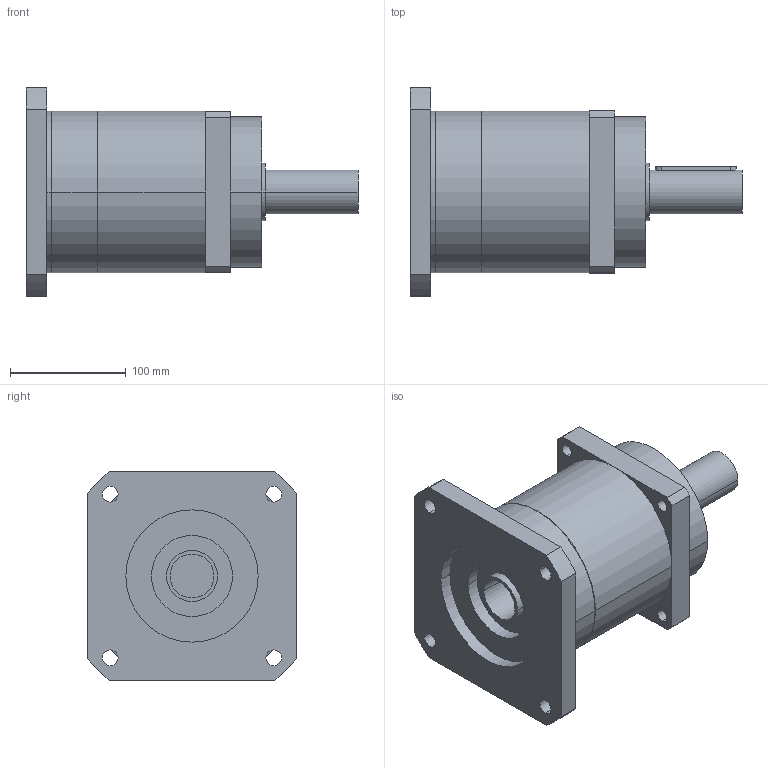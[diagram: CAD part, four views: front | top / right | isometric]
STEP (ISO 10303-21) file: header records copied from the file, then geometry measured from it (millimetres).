
FILE_DESCRIPTION(('CoCreate Modeling STEP Export'),'2;1');
FILE_NAME('GPR150_ig-3-4-5-7_38_B5_38_P09.stp','2014-08-19T16:43:32',(''),(''),'CoCreate Modeling STEP processor for AP214 (Solid Model)','CoCreate Modeling 16.00C 25-Feb-2009 (C) Parametric Technology GmbH','');
FILE_SCHEMA(('AUTOMOTIVE_DESIGN { 1 0 10303 214 1 1 1 1 }'));
Length unit declared in the file: millimetre
Products named in the file (2): GPR150_ig-3-4-5-7_38_B5_38_P09
Assembly tree (1 placements, depth 2):
  GPR150_ig-3-4-5-7_38_B5_38_P09
    GPR150_ig-3-4-5-7_38_B5_38_P09
Bounding box: 287 x 180 x 180 mm (x, y, z)
Volume: 3317627.4 mm3; surface area: 199503.4 mm2
Topology: 1 solids, 1 shells, 81 faces, 221 edges, 151 vertices
Faces by surface type: cylinder 48, plane 27, cone 6
Entity records: 2330 total; most frequent: ORIENTED_EDGE 438, CARTESIAN_POINT 432, DIRECTION 330, EDGE_CURVE 219, VERTEX_POINT 151, AXIS2_PLACEMENT_3D 121, EDGE_LOOP 108, VECTOR 88
